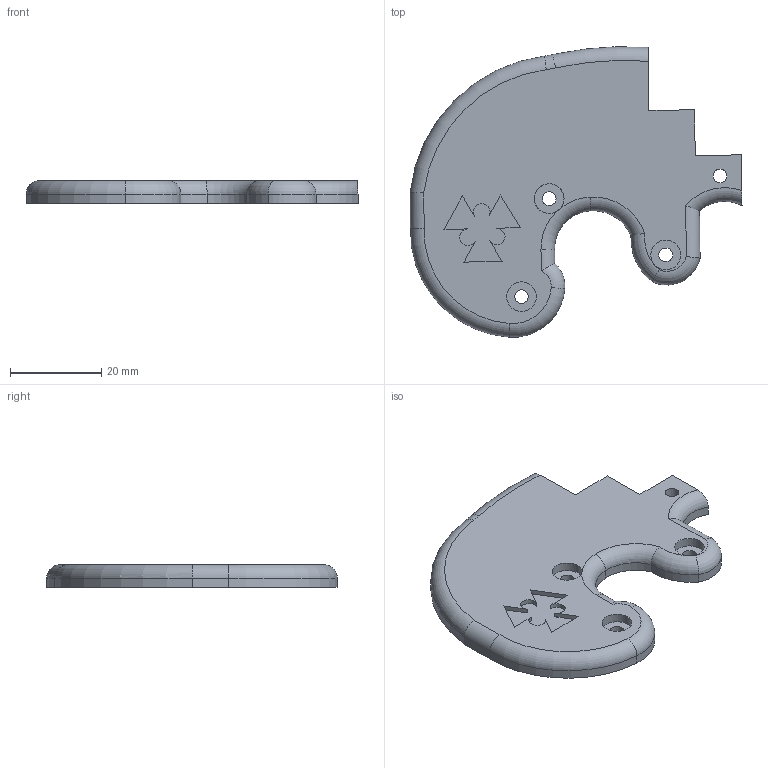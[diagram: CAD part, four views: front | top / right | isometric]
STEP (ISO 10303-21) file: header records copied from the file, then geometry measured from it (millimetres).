
FILE_DESCRIPTION((''),'2;1');
FILE_NAME('C:\MRFR\SHOCK\Hexen\STP\frame_L.stp','2013-08-15T20:10:46',('mrfr'),(''),'Autodesk Inventor 2013','Autodesk Inventor 2013','');
FILE_SCHEMA(('AUTOMOTIVE_DESIGN { 1 0 10303 214 1 1 1 1 }'));
Length unit declared in the file: millimetre
Products named in the file (1): frame_L
Bounding box: 72.68 x 63.59 x 5 mm (x, y, z)
Volume: 13744.7 mm3; surface area: 7145 mm2
Topology: 1 solids, 1 shells, 58 faces, 167 edges, 131 vertices
Faces by surface type: cylinder 24, plane 23, torus 11
Full cylindrical faces by diameter (mm): 3 x4, 6.5 x3
Entity records: 2106 total; most frequent: CARTESIAN_POINT 465, DIRECTION 340, ORIENTED_EDGE 276, EDGE_CURVE 138, AXIS2_PLACEMENT_3D 133, VERTEX_POINT 92, EDGE_LOOP 76, CIRCLE 74
